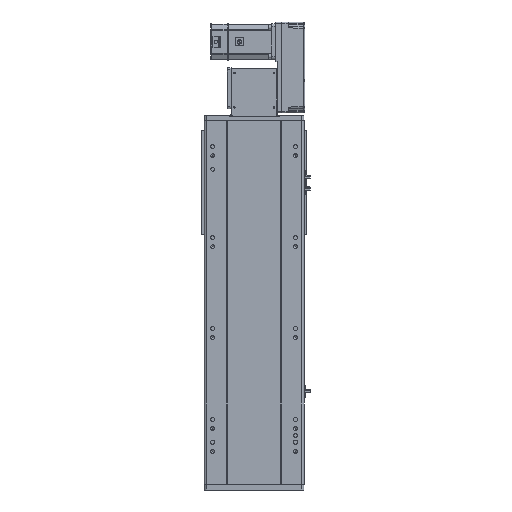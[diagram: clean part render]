
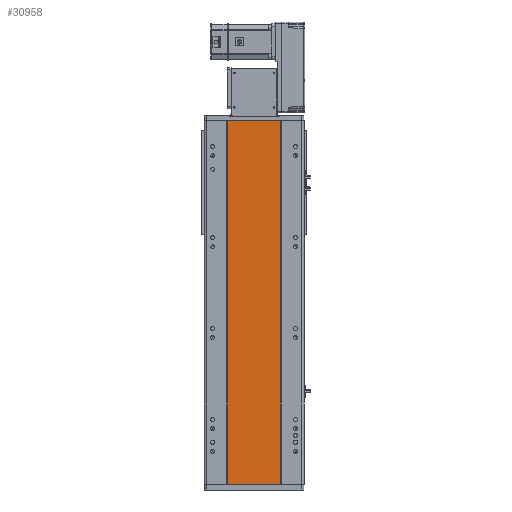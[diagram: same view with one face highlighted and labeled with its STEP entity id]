
A CAD part, front view. The second image highlights one B-rep face of the part: STEP entity #30958.
In plain terms, the highlighted planar face has unit normal (0, -1, 0).
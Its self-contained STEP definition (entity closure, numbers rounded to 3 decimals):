
#3293 = DIRECTION ( 'NONE',  ( 1., 0., 0. ) ) ;
#3626 = CARTESIAN_POINT ( 'NONE',  ( -59., 1., 399.5 ) ) ;
#3884 = EDGE_CURVE ( 'NONE', #4099, #21650, #42401, .T. ) ;
#3951 = CARTESIAN_POINT ( 'NONE',  ( -59., 1., 399.5 ) ) ;
#4099 = VERTEX_POINT ( 'NONE', #48154 ) ;
#4326 = EDGE_CURVE ( 'NONE', #9894, #23045, #6308, .T. ) ;
#5250 = ORIENTED_EDGE ( 'NONE', *, *, #10923, .F. ) ;
#6308 = LINE ( 'NONE', #42238, #49785 ) ;
#8316 = CARTESIAN_POINT ( 'NONE',  ( 59., 1., 399.5 ) ) ;
#9683 = CARTESIAN_POINT ( 'NONE',  ( -59., 1., 399.5 ) ) ;
#9894 = VERTEX_POINT ( 'NONE', #49132 ) ;
#10126 = DIRECTION ( 'NONE',  ( 1., 0., 0. ) ) ;
#10923 = EDGE_CURVE ( 'NONE', #21650, #23045, #22479, .T. ) ;
#12387 = AXIS2_PLACEMENT_3D ( 'NONE', #3951, #44000, #31754 ) ;
#20143 = VECTOR ( 'NONE', #3293, 1000. ) ;
#20404 = CARTESIAN_POINT ( 'NONE',  ( 59., 1., -399.5 ) ) ;
#20636 = ORIENTED_EDGE ( 'NONE', *, *, #3884, .F. ) ;
#21650 = VERTEX_POINT ( 'NONE', #8316 ) ;
#21734 = DIRECTION ( 'NONE',  ( 0., 0., -1. ) ) ;
#22479 = LINE ( 'NONE', #30597, #23079 ) ;
#23045 = VERTEX_POINT ( 'NONE', #20404 ) ;
#23079 = VECTOR ( 'NONE', #38869, 1000. ) ;
#27010 = LINE ( 'NONE', #9683, #29515 ) ;
#29515 = VECTOR ( 'NONE', #21734, 1000. ) ;
#30597 = CARTESIAN_POINT ( 'NONE',  ( 59., 1., 399.5 ) ) ;
#30958 = ADVANCED_FACE ( 'NONE', ( #47581 ), #47486, .F. ) ;
#31754 = DIRECTION ( 'NONE',  ( -1., 0., 0. ) ) ;
#32767 = ORIENTED_EDGE ( 'NONE', *, *, #46805, .T. ) ;
#38344 = EDGE_LOOP ( 'NONE', ( #50437, #5250, #20636, #32767 ) ) ;
#38869 = DIRECTION ( 'NONE',  ( 0., 0., -1. ) ) ;
#42238 = CARTESIAN_POINT ( 'NONE',  ( -59., 1., -399.5 ) ) ;
#42401 = LINE ( 'NONE', #3626, #20143 ) ;
#44000 = DIRECTION ( 'NONE',  ( 0., 1., 0. ) ) ;
#46805 = EDGE_CURVE ( 'NONE', #4099, #9894, #27010, .T. ) ;
#47486 = PLANE ( 'NONE',  #12387 ) ;
#47581 = FACE_OUTER_BOUND ( 'NONE', #38344, .T. ) ;
#48154 = CARTESIAN_POINT ( 'NONE',  ( -59., 1., 399.5 ) ) ;
#49132 = CARTESIAN_POINT ( 'NONE',  ( -59., 1., -399.5 ) ) ;
#49785 = VECTOR ( 'NONE', #10126, 1000. ) ;
#50437 = ORIENTED_EDGE ( 'NONE', *, *, #4326, .T. ) ;
